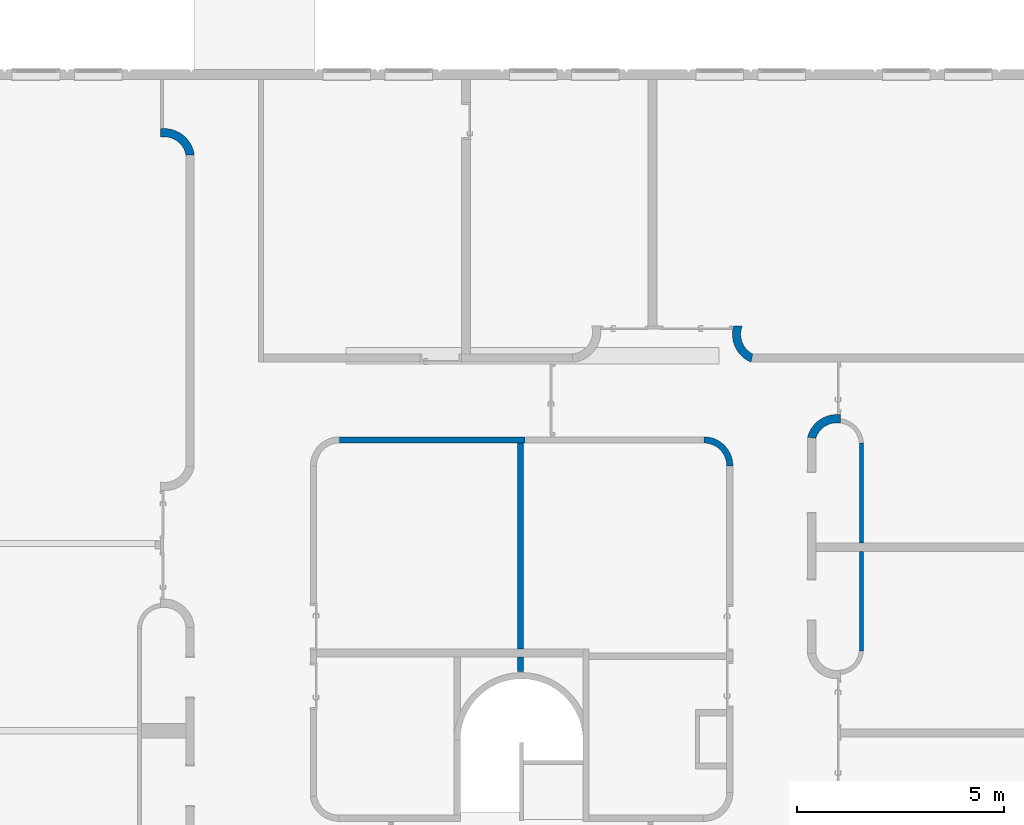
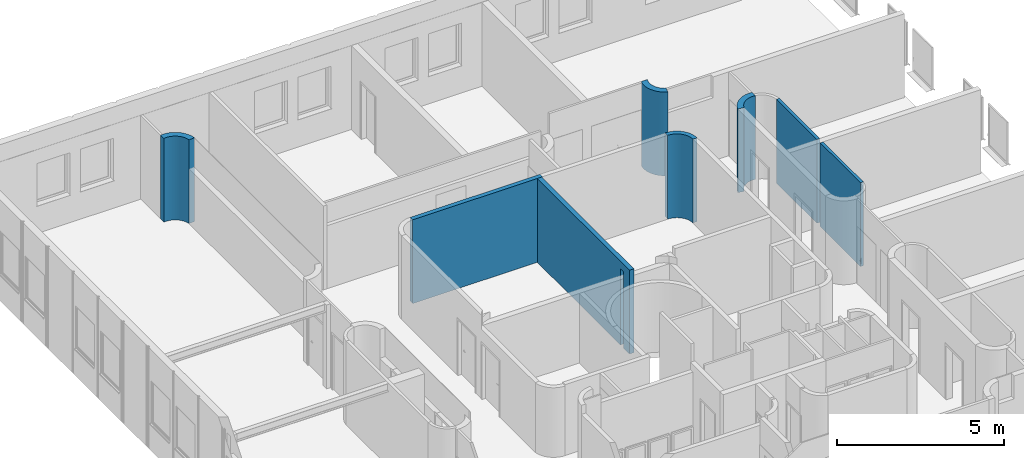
# One storey, part 5 of 7: 7 walls.
"""IFC2X3 building model written with IfcOpenShell, lengths in metres."""

from ifc_helpers import new_model, entity, si_unit, converted_unit, derived_unit, direction, frame, frame_2d, origin, place, context, subcontext, project, spatial, polyline, circle_curve, parameter, trimmed, segment, composite_curve, rectangle, outline, extrude, clip, halfspace, bounded_halfspace, material, layer, layer_set, layer_usage, type_object, element, save


model = new_model("IFC2X3")

# Units and contexts
model_context = context("Model", 3, precision=1e-05, world=origin(), true_north=direction((6.12303176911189e-17, 1.0)))
body_context = subcontext(model_context, "Body", "Model", "MODEL_VIEW")
ifc_project = project(units=[si_unit("LENGTHUNIT", "METRE"), si_unit("AREAUNIT", "SQUARE_METRE"), si_unit("VOLUMEUNIT", "CUBIC_METRE"), converted_unit("PLANEANGLEUNIT", "DEGREE", entity("IfcRatioMeasure", 0.0174532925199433), si_unit("PLANEANGLEUNIT", "RADIAN"), dimensions=[0, 0, 0, 0, 0, 0, 0]), si_unit("MASSUNIT", "GRAM", prefix="KILO"), derived_unit("MASSDENSITYUNIT", [(si_unit("MASSUNIT", "GRAM", prefix="KILO"), 1), (si_unit("LENGTHUNIT", "METRE"), -3)]), derived_unit("MOMENTOFINERTIAUNIT", [(si_unit("LENGTHUNIT", "METRE"), 4)]), si_unit("TIMEUNIT", "SECOND"), si_unit("FREQUENCYUNIT", "HERTZ"), si_unit("THERMODYNAMICTEMPERATUREUNIT", "DEGREE_CELSIUS"), derived_unit("THERMALTRANSMITTANCEUNIT", [(si_unit("MASSUNIT", "GRAM", prefix="KILO"), 1), (si_unit("THERMODYNAMICTEMPERATUREUNIT", "KELVIN"), -1), (si_unit("TIMEUNIT", "SECOND"), -3)]), derived_unit("VOLUMETRICFLOWRATEUNIT", [(si_unit("LENGTHUNIT", "METRE"), 3), (si_unit("TIMEUNIT", "SECOND"), -1)]), si_unit("ELECTRICCURRENTUNIT", "AMPERE"), si_unit("ELECTRICVOLTAGEUNIT", "VOLT"), si_unit("POWERUNIT", "WATT"), si_unit("FORCEUNIT", "NEWTON", prefix="KILO"), si_unit("ILLUMINANCEUNIT", "LUX"), si_unit("LUMINOUSFLUXUNIT", "LUMEN"), si_unit("LUMINOUSINTENSITYUNIT", "CANDELA"), derived_unit("USERDEFINED", [(si_unit("MASSUNIT", "GRAM", prefix="KILO"), -1), (si_unit("LENGTHUNIT", "METRE"), -2), (si_unit("TIMEUNIT", "SECOND"), 3), (si_unit("LUMINOUSFLUXUNIT", "LUMEN"), 1)]), derived_unit("LINEARVELOCITYUNIT", [(si_unit("LENGTHUNIT", "METRE"), 1), (si_unit("TIMEUNIT", "SECOND"), -1)]), si_unit("PRESSUREUNIT", "PASCAL"), derived_unit("USERDEFINED", [(si_unit("LENGTHUNIT", "METRE"), -2), (si_unit("MASSUNIT", "GRAM", prefix="KILO"), 1), (si_unit("TIMEUNIT", "SECOND"), -2)]), derived_unit("LINEARFORCEUNIT", [(si_unit("MASSUNIT", "GRAM", prefix="KILO"), 1), (si_unit("LENGTHUNIT", "METRE"), 1), (si_unit("TIMEUNIT", "SECOND"), -2), (si_unit("LENGTHUNIT", "METRE"), -1)]), derived_unit("PLANARFORCEUNIT", [(si_unit("MASSUNIT", "GRAM", prefix="KILO"), 1), (si_unit("LENGTHUNIT", "METRE"), 1), (si_unit("TIMEUNIT", "SECOND"), -2), (si_unit("LENGTHUNIT", "METRE"), -2)])], contexts=[model_context])

# Site, building, storey
site_placement = place(None, origin())
site = spatial("IfcSite", under=ifc_project, at=site_placement, Name="Default", CompositionType="ELEMENT")
building_placement = place(site_placement, origin())
building = spatial("IfcBuilding", under=site, at=building_placement, CompositionType="ELEMENT")
storey_placement = place(building_placement, frame((0.0, 0.0, 7.36730827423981)))
storey = spatial("IfcBuildingStorey", under=building, at=storey_placement, Name="Niveau 2", CompositionType="ELEMENT", Elevation=7.36730827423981)

# Walls
ifc_material_1 = material(Name="Maçonnerie - Voile BA")
ifc_layer_1 = layer(ifc_material_1, 0.2)
ifc_layer_set_1 = layer_set([ifc_layer_1], Name="Mur de base:Ext. Voile BA 200")
ifc_layer_usage_1 = layer_usage(ifc_layer_set_1, "AXIS2", "NEGATIVE", 0.1)
wall_type_1 = type_object("IfcWallType", Name="Mur de base:Ext. Voile BA 200", PredefinedType="STANDARD", material=ifc_layer_set_1)
wall_1_placement = place(storey_placement, frame((-3.84716627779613, 1.91677474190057, 0.0), z_axis=(0.0, 0.0, 1.0), x_axis=(-1.0, 0.0, 0.0)))
element("IfcWallStandardCase", 1, at=wall_1_placement, inside=storey, type_object=wall_type_1, material=ifc_layer_usage_1, Name="Mur de base:Ext. Voile BA 200", ObjectType="Mur de base:Ext. Voile BA 200", context=body_context, shape_type="Clipping", body=[
    clip(extrude(outline(composite_curve([segment(polyline([(-0.700823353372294, -0.56678490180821), (-0.665836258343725, -0.570319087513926)]), True, "CONTINUOUS"), segment(polyline([(-0.665836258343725, -0.570319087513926), (-0.63075544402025, -0.572161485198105)]), True, "CONTINUOUS"), segment(polyline([(-0.63075544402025, -0.572161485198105), (-0.541551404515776, -0.56924418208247)]), True, "CONTINUOUS"), segment(polyline([(-0.541551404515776, -0.56924418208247), (-0.453317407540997, -0.555449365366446)]), True, "CONTINUOUS"), segment(polyline([(-0.453317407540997, -0.555449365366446), (-0.36742882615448, -0.530983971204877)]), True, "CONTINUOUS"), segment(polyline([(-0.36742882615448, -0.530983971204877), (-0.285170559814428, -0.496214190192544)]), True, "CONTINUOUS"), segment(polyline([(-0.285170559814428, -0.496214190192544), (-0.207773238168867, -0.451660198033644)]), True, "CONTINUOUS"), segment(polyline([(-0.207773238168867, -0.451660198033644), (-0.136394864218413, -0.397988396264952)]), True, "CONTINUOUS"), segment(polyline([(-0.136394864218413, -0.397988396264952), (-0.0721035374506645, -0.336001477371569)]), True, "CONTINUOUS"), segment(polyline([(-0.0721035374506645, -0.336001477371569), (-0.0158615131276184, -0.266626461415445)]), True, "CONTINUOUS"), segment(polyline([(-0.0158615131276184, -0.266626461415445), (0.0314891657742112, -0.190900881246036)]), True, "CONTINUOUS"), segment(polyline([(0.0314891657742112, -0.190900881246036), (0.0692386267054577, -0.109958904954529)]), True, "CONTINUOUS"), segment(polyline([(0.0692386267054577, -0.109958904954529), (0.0968228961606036, -0.0250065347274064)]), True, "CONTINUOUS"), segment(polyline([(0.0968228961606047, -0.0250065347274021), (-0.103177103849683, 0.00247176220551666)]), True, "CONTINUOUS"), segment(trimmed(circle_curve(frame_2d((-0.609984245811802, 0.157541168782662), x_axis=(1.0, 0.0)), 0.53), [parameter(260.131089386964)], [parameter(342.987292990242)], True, "PARAMETER"), False, "CONTINUOUS"), segment(polyline([(-0.70082335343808, -0.364616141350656), (-0.700823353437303, -0.367004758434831)]), True, "CONTINUOUS"), segment(polyline([(-0.700823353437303, -0.367004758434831), (-0.700823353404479, -0.467877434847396)]), True, "CONTINUOUS"), segment(polyline([(-0.700823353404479, -0.467877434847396), (-0.700823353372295, -0.56678490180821)]), True, "CONTINUOUS")], self_intersect=False)), origin(), (0.0, 0.0, 1.0), 3.05600000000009), bounded_halfspace(frame((-0.700823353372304, -0.566784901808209, 3.05600000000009), z_axis=(0.0, 0.0, -1.0), x_axis=(0.0, -1.0, 0.0)), True, frame((-0.700823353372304, -0.566784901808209, 3.05600000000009)), composite_curve([segment(trimmed(circle_curve(frame_2d((0.0276877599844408, 0.220774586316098), x_axis=(1.0, 0.0)), 0.73), [parameter(262.851747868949)], [parameter(268.364171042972)], True, "PARAMETER"), True, "CONTINUOUS"), segment(trimmed(circle_curve(frame_2d((0.0276877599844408, 0.220774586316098), x_axis=(1.0, 0.0)), 0.73), [parameter(268.364171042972)], [parameter(345.518620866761)], True, "PARAMETER"), True, "CONTINUOUS"), segment(polyline([(0.243122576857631, 0.165134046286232), (0.182162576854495, 0.173509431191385)]), True, "CONTINUOUS"), segment(trimmed(circle_curve(frame_2d((0.0276877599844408, 0.220774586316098), x_axis=(1.0, 0.0)), 0.53), [parameter(260.131089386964)], [parameter(342.987292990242)], True, "PARAMETER"), False, "CONTINUOUS"), segment(polyline([(0.0, 0.0616210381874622), (0.0, 0.0608929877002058)]), True, "CONTINUOUS"), segment(polyline([(0.0, 0.0608929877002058), (0.0, 0.0301469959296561)]), True, "CONTINUOUS"), segment(polyline([(0.0, 0.0301469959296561), (0.0, 0.0)]), True, "CONTINUOUS")], self_intersect=False))),
])
ifc_layer_usage_2 = layer_usage(ifc_layer_set_1, "AXIS2", "NEGATIVE", 0.1)
wall_2_placement = place(storey_placement, frame((-19.5733633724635, 9.28108965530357, 0.0)))
element("IfcWallStandardCase", 2, at=wall_2_placement, inside=storey, type_object=wall_type_1, material=ifc_layer_usage_2, Name="Mur de base:Ext. Voile BA 200", ObjectType="Mur de base:Ext. Voile BA 200", context=body_context, shape_type="Clipping", body=[
    clip(extrude(outline(composite_curve([segment(trimmed(circle_curve(frame_2d((0.106142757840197, -0.620994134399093), x_axis=(1.0, 0.0)), 0.73), [parameter(7.80836949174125)], [parameter(97.0261024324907)], True, "PARAMETER"), True, "CONTINUOUS"), segment(polyline([(0.0168480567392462, 0.10352395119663), (0.0168480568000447, -0.0985704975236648)]), True, "CONTINUOUS"), segment(trimmed(circle_curve(frame_2d((0.106142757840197, -0.620994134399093), x_axis=(1.0, 0.0)), 0.53), [parameter(9.16665725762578)], [parameter(99.6994878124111)], True, "PARAMETER"), False, "CONTINUOUS"), segment(polyline([(0.62937420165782, -0.536561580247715), (0.829374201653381, -0.521816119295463)]), True, "CONTINUOUS")], self_intersect=False)), origin(), (0.0, 0.0, 1.0), 3.05600000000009), bounded_halfspace(frame((0.829374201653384, -0.521816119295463, 3.05600000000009), z_axis=(0.0, 0.0, -1.0), x_axis=(0.0, 1.0, 0.0)), True, frame((0.829374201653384, -0.521816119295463, 3.05600000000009)), composite_curve([segment(trimmed(circle_curve(frame_2d((-0.220440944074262, -0.0302294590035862), x_axis=(1.0, 0.0)), 0.73), [parameter(7.8083694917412)], [parameter(14.0273680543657)], True, "PARAMETER"), True, "CONTINUOUS"), segment(trimmed(circle_curve(frame_2d((-0.220440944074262, -0.0302294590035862), x_axis=(1.0, 0.0)), 0.73), [parameter(14.0273680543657)], [parameter(45.8764859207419)], True, "PARAMETER"), True, "CONTINUOUS"), segment(trimmed(circle_curve(frame_2d((-0.220440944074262, -0.0302294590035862), x_axis=(1.0, 0.0)), 0.73), [parameter(45.8764859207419)], [parameter(97.0261024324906)], True, "PARAMETER"), True, "CONTINUOUS"), segment(polyline([(-0.247657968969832, 0.19060365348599), (-0.247657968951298, 0.129005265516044)]), True, "CONTINUOUS"), segment(trimmed(circle_curve(frame_2d((-0.220440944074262, -0.0302294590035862), x_axis=(1.0, 0.0)), 0.53), [parameter(16.4782964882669)], [parameter(99.6994878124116)], True, "PARAMETER"), False, "CONTINUOUS"), segment(trimmed(circle_curve(frame_2d((-0.220440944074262, -0.0302294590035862), x_axis=(1.0, 0.0)), 0.53), [parameter(9.16665725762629)], [parameter(16.4782964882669)], True, "PARAMETER"), False, "CONTINUOUS"), segment(polyline([(-0.0609599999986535, -0.00449441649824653), (-0.00457200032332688, -0.000337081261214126)]), True, "CONTINUOUS"), segment(polyline([(-0.00457200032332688, -0.000337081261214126), (0.0, 0.0)]), True, "CONTINUOUS")], self_intersect=False))),
])
ifc_layer_usage_3 = layer_usage(ifc_layer_set_1, "AXIS2", "NEGATIVE", 0.1)
wall_3_placement = place(storey_placement, frame((-5.61128194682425, 4.65797279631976, 0.0), z_axis=(0.0, 0.0, 1.0), x_axis=(-1.0, 0.0, 0.0)))
element("IfcWallStandardCase", 3, at=wall_3_placement, inside=storey, type_object=wall_type_1, material=ifc_layer_usage_3, Name="Mur de base:Ext. Voile BA 200", ObjectType="Mur de base:Ext. Voile BA 200", context=body_context, shape_type="Clipping", body=[
    clip(extrude(outline(composite_curve([segment(trimmed(circle_curve(frame_2d((-0.585269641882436, 0.233151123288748), x_axis=(1.0, 0.0)), 0.53), [parameter(338.279378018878)], [parameter(63.4090154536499)], True, "PARAMETER"), False, "CONTINUOUS"), segment(polyline([(-0.0928999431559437, 0.0370081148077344), (0.117886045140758, 0.0370081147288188)]), True, "CONTINUOUS"), segment(trimmed(circle_curve(frame_2d((-0.585269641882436, 0.233151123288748), x_axis=(1.0, 0.0)), 0.73), [parameter(344.413727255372)], [parameter(67.3991058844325)], True, "PARAMETER"), True, "CONTINUOUS"), segment(polyline([(-0.304723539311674, 0.907090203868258), (-0.348031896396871, 0.707090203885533)]), True, "CONTINUOUS")], self_intersect=False)), origin(), (0.0, 0.0, 1.0), 3.05600000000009), halfspace(frame((-0.348031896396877, 0.707090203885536, 3.05600000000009), z_axis=(0.0, 0.0, -1.0), x_axis=(0.0, -1.0, 0.0)), True)),
])
ifc_material_2 = material(Name="Mur par défaut")
ifc_layer_2 = layer(ifc_material_2, 0.1)
ifc_layer_set_2 = layer_set([ifc_layer_2], Name="Mur de base:@_Générique - Int. 100 mm")
wall_type_2 = type_object("IfcWallType", Name="Mur de base:@_Générique - Int. 100 mm", PredefinedType="STANDARD", material=ifc_layer_set_2)
wall_4_placement = place(storey_placement, frame((-2.64408012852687, 1.80810072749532, 0.0), z_axis=(0.0, 0.0, 1.0), x_axis=(0.0, -1.0, 0.0)))
element("IfcWall", 4, at=wall_4_placement, inside=storey, type_object=wall_type_2, Name="Mur de base:@_Générique - Int. 100 mm", ObjectType="Mur de base:@_Générique - Int. 100 mm", context=body_context, shape_type="SweptSolid", body=[
    extrude(outline(polyline([(-1.20791600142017, -0.0500000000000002), (1.20994210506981, -0.0500000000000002), (1.20994210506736, 0.0499999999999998), (-1.211968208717, 0.0499999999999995), (-1.20791600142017, -0.0500000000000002)])), frame((1.211968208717, 0.0, 0.0)), (0.0, 0.0, 1.0), 3.05600000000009),
    extrude(outline(polyline([(-1.20418857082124, -0.0500000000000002), (1.20213559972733, -0.0500000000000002), (1.20213559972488, 0.0499999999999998), (-1.20008262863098, 0.0499999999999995), (-1.20418857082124, -0.0500000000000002)])), frame((3.8240459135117, 0.0, 0.0), z_axis=(0.0, 0.0, 1.0), x_axis=(-1.0, 0.0, 0.0)), (0.0, 0.0, 1.0), 3.05600000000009),
])
ifc_layer_3 = layer(ifc_material_1, 0.15)
ifc_layer_set_3 = layer_set([ifc_layer_3], Name="Mur de base:Ext. Voile BA 150")
ifc_layer_usage_4 = layer_usage(ifc_layer_set_3, "AXIS2", "NEGATIVE", 0.075)
wall_type_3 = type_object("IfcWallType", Name="Mur de base:Ext. Voile BA 150", PredefinedType="STANDARD", material=ifc_layer_set_3)
wall_5_placement = place(storey_placement, frame((-10.7631329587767, 1.87588709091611, 0.0), z_axis=(0.0, 0.0, 1.0), x_axis=(-1.0, 0.0, 0.0)))
element("IfcWallStandardCase", 5, at=wall_5_placement, inside=storey, type_object=wall_type_3, material=ifc_layer_usage_4, Name="Mur de base:Ext. Voile BA 150", ObjectType="Mur de base:Ext. Voile BA 150", context=body_context, shape_type="Clipping", body=[
    clip(extrude(rectangle(XDim=4.47710621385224, YDim=0.15, at=frame_2d((2.23855310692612, -4.85722573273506e-17), x_axis=(-1.0, 0.0))), origin(), (0.0, 0.0, 1.0), 3.05600000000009), bounded_halfspace(frame((0.0, -0.075, 3.05600000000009), z_axis=(0.0, 0.0, -1.0), x_axis=(0.0, -1.0, 0.0)), True, frame((0.0, -0.075, 3.05600000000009)), polyline([(0.0, 0.0), (4.17741321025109, 0.0), (4.32741321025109, 0.0), (4.47710621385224, 0.0), (4.47710621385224, 0.15), (0.0, 0.15), (0.0, 0.0)]))),
])
ifc_layer_usage_5 = layer_usage(ifc_layer_set_3, "AXIS2", "NEGATIVE", 0.075)
wall_6_placement = place(storey_placement, frame((-5.81898917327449, 1.25095738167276, 0.0)))
element("IfcWallStandardCase", 6, at=wall_6_placement, inside=storey, type_object=wall_type_3, material=ifc_layer_usage_5, Name="Mur de base:Ext. Voile BA 150", ObjectType="Mur de base:Ext. Voile BA 150", context=body_context, shape_type="Clipping", body=[
    clip(extrude(outline(composite_curve([segment(trimmed(circle_curve(frame_2d((-0.624999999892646, 0.0), x_axis=(1.0, 0.0)), 0.549999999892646), [parameter(5.24676513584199e-08)], [parameter(90.0000000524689)], True, "PARAMETER"), False, "CONTINUOUS"), segment(polyline([(-0.0750000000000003, 0.0), (0.0749999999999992, 0.0)]), True, "CONTINUOUS"), segment(trimmed(circle_curve(frame_2d((-0.624999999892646, 0.0), x_axis=(1.0, 0.0)), 0.699999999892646), [parameter(5.24676525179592e-08)], [parameter(90.0000000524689)], True, "PARAMETER"), True, "CONTINUOUS"), segment(polyline([(-0.625000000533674, 0.699999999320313), (-0.625000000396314, 0.549999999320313)]), True, "CONTINUOUS")], self_intersect=False)), origin(), (0.0, 0.0, 1.0), 3.05600000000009), halfspace(frame((-0.625000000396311, 0.549999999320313, 3.05600000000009), z_axis=(0.0, 0.0, -1.0), x_axis=(0.0, 1.0, 0.0)), True)),
])
ifc_layer_4 = layer(ifc_material_2, 0.15)
ifc_layer_set_4 = layer_set([ifc_layer_4], Name="Mur de base:@_Générique - Int. 150 mm")
ifc_layer_usage_6 = layer_usage(ifc_layer_set_4, "AXIS2", "NEGATIVE", 0.075)
wall_type_4 = type_object("IfcWallType", Name="Mur de base:@_Générique - Int. 150 mm", PredefinedType="STANDARD", material=ifc_layer_set_4)
wall_7_placement = place(storey_placement, frame((-10.8689891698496, 1.80088709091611, 0.0), z_axis=(0.0, 0.0, 1.0), x_axis=(0.0, -1.0, 0.0)))
element("IfcWallStandardCase", 7, at=wall_7_placement, inside=storey, type_object=wall_type_4, material=ifc_layer_usage_6, Name="Mur de base:@_Générique - Int. 150 mm", ObjectType="Mur de base:@_Générique - Int. 150 mm", context=body_context, shape_type="Clipping", body=[
    clip(extrude(rectangle(XDim=5.51344896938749, YDim=0.150000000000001, at=frame_2d((2.75672448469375, -8.32667268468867e-17), x_axis=(1.0, 0.0))), origin(), (0.0, 0.0, 1.0), 3.05600000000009), bounded_halfspace(frame((5.16500223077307, 0.0749999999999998, 2.7860000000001), z_axis=(0.0, 0.0, 1.0), x_axis=(-1.0, 0.0, 0.0)), True, frame((5.16500223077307, 0.0749999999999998, 2.7860000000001), z_axis=(0.0, 0.0, 1.0), x_axis=(-1.0, 0.0, 0.0)), polyline([(0.0, 0.0), (0.200000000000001, 0.0), (0.2, 0.149999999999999), (0.0, 0.149999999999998), (0.0, 0.0)]))),
])

save(model, "model.ifc")
